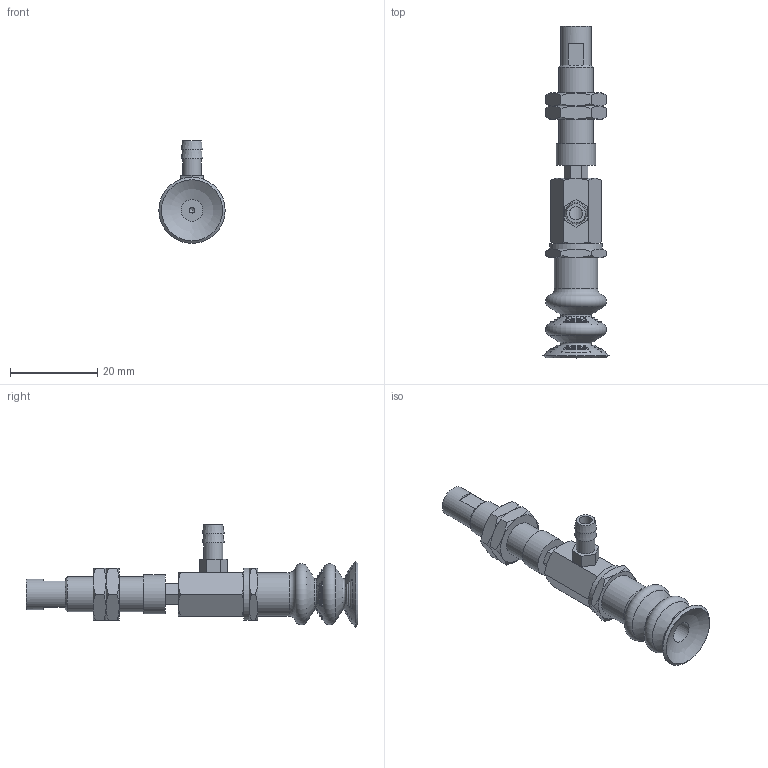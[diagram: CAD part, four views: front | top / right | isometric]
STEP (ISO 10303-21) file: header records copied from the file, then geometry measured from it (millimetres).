
FILE_DESCRIPTION(('STEP AP203'),'1');
FILE_NAME('-T.stp','2025-04-04T00:59:54',(' '),(' '),'Spatial InterOp 3D',' ',' ');
FILE_SCHEMA(('CONFIG_CONTROL_DESIGN'));
Length unit declared in the file: millimetre
Products named in the file (8): BNABPCYH-15-3-※-T; Adapter_napc-15-T; Connector_h-15-3; Nut napc_h-15-3; NAPCTH-15-3-FBODY; NAPCTH-15-3-MBODY; BPCG-15-※; T
Assembly tree (8 placements, depth 2):
  BNABPCYH-15-3-※-T
    Adapter_napc-15-T
    Connector_h-15-3
    Nut napc_h-15-3  x2
    NAPCTH-15-3-FBODY
    NAPCTH-15-3-MBODY
    BPCG-15-※
    T
Bounding box: 15.2 x 76.2 x 23.6 mm (x, y, z)
Volume: 5638.9 mm3; surface area: 6071 mm2
Topology: 8 solids, 8 shells, 265 faces, 765 edges, 493 vertices
Faces by surface type: plane 82, cone 71, sphere 58, torus 34, cylinder 20
Full cylindrical faces by diameter (mm): 1.25 x1, 3 x1, 4.134 x3, 4.3 x1, 5 x7, 7 x1, 7.188 x2, 8 x1, 9 x1, 10 x1, 12 x1
Entity records: 7581 total; most frequent: CARTESIAN_POINT 2063, DIRECTION 1106, ORIENTED_EDGE 952, AXIS2_PLACEMENT_3D 503, EDGE_CURVE 476, EDGE_LOOP 340, VERTEX_POINT 335, FACE_OUTER_BOUND 269
